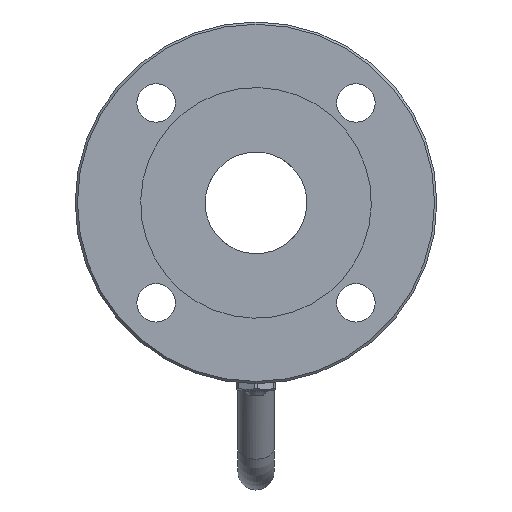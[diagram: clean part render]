
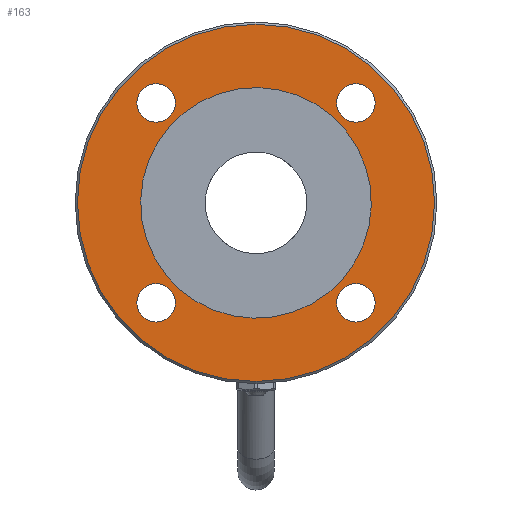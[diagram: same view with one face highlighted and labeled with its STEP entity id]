
A CAD part, left-side view. The second image highlights one B-rep face of the part: STEP entity #163.
In plain terms, the highlighted planar face has unit normal (-1, 0, 0).
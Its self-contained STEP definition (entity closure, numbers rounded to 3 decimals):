
#163=ADVANCED_FACE('',(#1384,#1386,#1388,#1390,#1392,#1394),#1396,.T.);
#1384=FACE_BOUND('',#1385,.T.);
#1385=EDGE_LOOP('',(#2242));
#1386=FACE_BOUND('',#1387,.T.);
#1387=EDGE_LOOP('',(#2243));
#1388=FACE_BOUND('',#1389,.T.);
#1389=EDGE_LOOP('',(#2244));
#1390=FACE_BOUND('',#1391,.T.);
#1391=EDGE_LOOP('',(#2245));
#1392=FACE_BOUND('',#1393,.T.);
#1393=EDGE_LOOP('',(#2246));
#1394=FACE_OUTER_BOUND('',#1395,.T.);
#1395=EDGE_LOOP('',(#2247));
#1396=PLANE('',#1397);
#1397=AXIS2_PLACEMENT_3D('',#1398,#1399,#1400);
#1398=CARTESIAN_POINT('',(-78.,0.,0.));
#1399=DIRECTION('',(-1.,0.,0.));
#1400=DIRECTION('',(0.,-1.,0.));
#2242=ORIENTED_EDGE('',*,*,#3256,.T.);
#2243=ORIENTED_EDGE('',*,*,#3257,.T.);
#2244=ORIENTED_EDGE('',*,*,#3258,.T.);
#2245=ORIENTED_EDGE('',*,*,#3259,.T.);
#2246=ORIENTED_EDGE('',*,*,#3240,.T.);
#2247=ORIENTED_EDGE('',*,*,#3260,.T.);
#3240=EDGE_CURVE('',#3577,#3577,#3578,.T.);
#3256=EDGE_CURVE('',#3601,#3601,#3602,.T.);
#3257=EDGE_CURVE('',#3603,#3603,#3604,.T.);
#3258=EDGE_CURVE('',#3605,#3605,#3606,.T.);
#3259=EDGE_CURVE('',#3607,#3607,#3608,.T.);
#3260=EDGE_CURVE('',#3609,#3609,#3610,.T.);
#3577=VERTEX_POINT('',#5078);
#3578=CIRCLE('',#5079,51.);
#3601=VERTEX_POINT('',#5137);
#3602=CIRCLE('',#5138,8.5);
#3603=VERTEX_POINT('',#5142);
#3604=CIRCLE('',#5143,8.5);
#3605=VERTEX_POINT('',#5147);
#3606=CIRCLE('',#5148,8.5);
#3607=VERTEX_POINT('',#5152);
#3608=CIRCLE('',#5153,8.5);
#3609=VERTEX_POINT('',#5157);
#3610=CIRCLE('',#5158,79.);
#5078=CARTESIAN_POINT('',(-78.,38.24,33.745));
#5079=AXIS2_PLACEMENT_3D('',#5080,#5081,#5082);
#5080=CARTESIAN_POINT('',(-78.,0.,0.));
#5081=DIRECTION('',(1.,0.,0.));
#5082=DIRECTION('',(0.,0.75,0.662));
#5137=CARTESIAN_POINT('',(-78.,44.194,-52.694));
#5138=AXIS2_PLACEMENT_3D('',#5139,#5140,#5141);
#5139=CARTESIAN_POINT('',(-78.,44.194,-44.194));
#5140=DIRECTION('',(1.,0.,0.));
#5141=DIRECTION('',(0.,0.,-1.));
#5142=CARTESIAN_POINT('',(-78.,52.694,44.194));
#5143=AXIS2_PLACEMENT_3D('',#5144,#5145,#5146);
#5144=CARTESIAN_POINT('',(-78.,44.194,44.194));
#5145=DIRECTION('',(1.,0.,0.));
#5146=DIRECTION('',(0.,1.,0.));
#5147=CARTESIAN_POINT('',(-78.,-44.194,52.694));
#5148=AXIS2_PLACEMENT_3D('',#5149,#5150,#5151);
#5149=CARTESIAN_POINT('',(-78.,-44.194,44.194));
#5150=DIRECTION('',(1.,0.,0.));
#5151=DIRECTION('',(0.,0.,1.));
#5152=CARTESIAN_POINT('',(-78.,-52.694,-44.194));
#5153=AXIS2_PLACEMENT_3D('',#5154,#5155,#5156);
#5154=CARTESIAN_POINT('',(-78.,-44.194,-44.194));
#5155=DIRECTION('',(1.,0.,0.));
#5156=DIRECTION('',(0.,-1.,0.));
#5157=CARTESIAN_POINT('',(-78.,-79.,0.));
#5158=AXIS2_PLACEMENT_3D('',#5159,#5160,#5161);
#5159=CARTESIAN_POINT('',(-78.,0.,0.));
#5160=DIRECTION('',(-1.,0.,0.));
#5161=DIRECTION('',(0.,-1.,0.));
